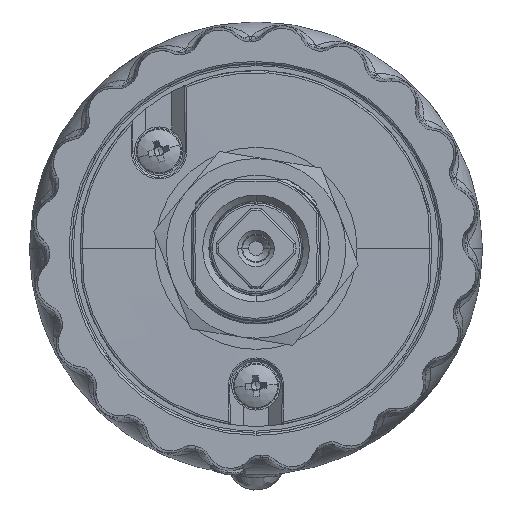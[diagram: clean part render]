
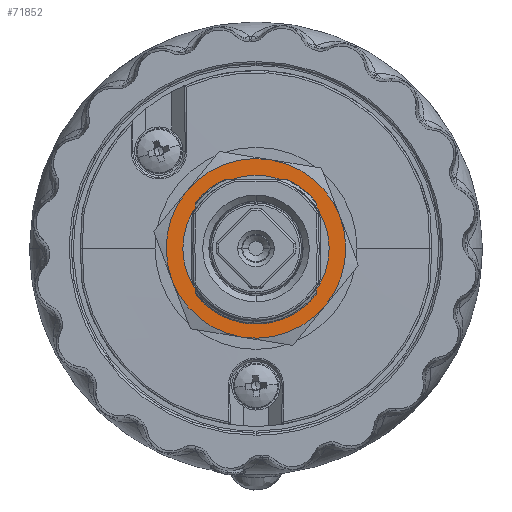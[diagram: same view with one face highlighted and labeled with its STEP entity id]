
A CAD part, front view. The second image highlights one B-rep face of the part: STEP entity #71852.
In plain terms, the highlighted planar face has unit normal (0, -1, 0).
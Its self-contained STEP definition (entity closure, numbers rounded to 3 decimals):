
#413 = VERTEX_POINT ( 'NONE', #24176 ) ;
#2072 = DIRECTION ( 'NONE',  ( 0., 0., 1. ) ) ;
#6147 = CARTESIAN_POINT ( 'NONE',  ( 0., -1.6, 0. ) ) ;
#6437 = AXIS2_PLACEMENT_3D ( 'NONE', #51635, #84936, #61442 ) ;
#8771 = AXIS2_PLACEMENT_3D ( 'NONE', #22211, #106858, #98677 ) ;
#12088 = CARTESIAN_POINT ( 'NONE',  ( 0., -1.6, 0. ) ) ;
#13111 = DIRECTION ( 'NONE',  ( 0., 0., 1. ) ) ;
#17838 = CARTESIAN_POINT ( 'NONE',  ( 0., -1.6, 0. ) ) ;
#18596 = DIRECTION ( 'NONE',  ( 0., -1., 0. ) ) ;
#18891 = CIRCLE ( 'NONE', #22399, 9.05 ) ;
#20760 = CARTESIAN_POINT ( 'NONE',  ( 0., -1.6, 0. ) ) ;
#21806 = EDGE_CURVE ( 'NONE', #83385, #69968, #51777, .T. ) ;
#22211 = CARTESIAN_POINT ( 'NONE',  ( -11.243, -1.6, 11.243 ) ) ;
#22399 = AXIS2_PLACEMENT_3D ( 'NONE', #54659, #87940, #13111 ) ;
#22487 = AXIS2_PLACEMENT_3D ( 'NONE', #20760, #18596, #53028 ) ;
#23152 = AXIS2_PLACEMENT_3D ( 'NONE', #12088, #57225, #29569 ) ;
#23854 = VERTEX_POINT ( 'NONE', #53484 ) ;
#24137 = ORIENTED_EDGE ( 'NONE', *, *, #90761, .T. ) ;
#24176 = CARTESIAN_POINT ( 'NONE',  ( 9.622, -1.6, -5.555 ) ) ;
#24209 = DIRECTION ( 'NONE',  ( 0., 0., 1. ) ) ;
#26127 = EDGE_LOOP ( 'NONE', ( #91401, #93571, #95500, #24137, #100813, #81645 ) ) ;
#29569 = DIRECTION ( 'NONE',  ( 0., 0., 1. ) ) ;
#31574 = CIRCLE ( 'NONE', #43739, 11.11 ) ;
#34681 = CARTESIAN_POINT ( 'NONE',  ( 0., -1.6, -11.11 ) ) ;
#35179 = CARTESIAN_POINT ( 'NONE',  ( 0., -1.6, 9.05 ) ) ;
#37473 = VERTEX_POINT ( 'NONE', #37492 ) ;
#37492 = CARTESIAN_POINT ( 'NONE',  ( 0., -1.6, -9.05 ) ) ;
#42455 = AXIS2_PLACEMENT_3D ( 'NONE', #6147, #105081, #54844 ) ;
#43739 = AXIS2_PLACEMENT_3D ( 'NONE', #17838, #101422, #76812 ) ;
#46361 = AXIS2_PLACEMENT_3D ( 'NONE', #106166, #97467, #24209 ) ;
#51212 = EDGE_CURVE ( 'NONE', #23854, #56881, #70223, .T. ) ;
#51635 = CARTESIAN_POINT ( 'NONE',  ( 0., -1.6, 0. ) ) ;
#51777 = CIRCLE ( 'NONE', #6437, 11.11 ) ;
#52427 = EDGE_CURVE ( 'NONE', #60425, #37473, #18891, .T. ) ;
#53028 = DIRECTION ( 'NONE',  ( 0., 0., 1. ) ) ;
#53484 = CARTESIAN_POINT ( 'NONE',  ( -9.622, -1.6, -5.555 ) ) ;
#54269 = EDGE_CURVE ( 'NONE', #37473, #60425, #90541, .T. ) ;
#54659 = CARTESIAN_POINT ( 'NONE',  ( 0., -1.6, 0. ) ) ;
#54844 = DIRECTION ( 'NONE',  ( 0., 0., 1. ) ) ;
#56881 = VERTEX_POINT ( 'NONE', #34681 ) ;
#57225 = DIRECTION ( 'NONE',  ( 0., -1., 0. ) ) ;
#57690 = FACE_OUTER_BOUND ( 'NONE', #26127, .T. ) ;
#60425 = VERTEX_POINT ( 'NONE', #35179 ) ;
#61442 = DIRECTION ( 'NONE',  ( 0., 0., 1. ) ) ;
#64298 = EDGE_CURVE ( 'NONE', #83885, #23854, #80744, .T. ) ;
#69968 = VERTEX_POINT ( 'NONE', #71498 ) ;
#70223 = CIRCLE ( 'NONE', #23152, 11.11 ) ;
#71498 = CARTESIAN_POINT ( 'NONE',  ( 0., -1.6, 11.11 ) ) ;
#71852 = ADVANCED_FACE ( 'NONE', ( #73506, #57690 ), #97074, .T. ) ;
#73506 = FACE_BOUND ( 'NONE', #97444, .T. ) ;
#75519 = CARTESIAN_POINT ( 'NONE',  ( 9.622, -1.6, 5.555 ) ) ;
#76812 = DIRECTION ( 'NONE',  ( 0., 0., 1. ) ) ;
#77235 = AXIS2_PLACEMENT_3D ( 'NONE', #85653, #100977, #2072 ) ;
#80744 = CIRCLE ( 'NONE', #77235, 11.11 ) ;
#81645 = ORIENTED_EDGE ( 'NONE', *, *, #21806, .T. ) ;
#83226 = EDGE_CURVE ( 'NONE', #413, #83385, #91741, .T. ) ;
#83385 = VERTEX_POINT ( 'NONE', #75519 ) ;
#83885 = VERTEX_POINT ( 'NONE', #86091 ) ;
#84936 = DIRECTION ( 'NONE',  ( 0., -1., 0. ) ) ;
#85653 = CARTESIAN_POINT ( 'NONE',  ( 0., -1.6, 0. ) ) ;
#86091 = CARTESIAN_POINT ( 'NONE',  ( -9.622, -1.6, 5.555 ) ) ;
#87940 = DIRECTION ( 'NONE',  ( 0., -1., 0. ) ) ;
#90541 = CIRCLE ( 'NONE', #22487, 9.05 ) ;
#90761 = EDGE_CURVE ( 'NONE', #56881, #413, #100015, .T. ) ;
#91401 = ORIENTED_EDGE ( 'NONE', *, *, #101398, .T. ) ;
#91741 = CIRCLE ( 'NONE', #46361, 11.11 ) ;
#93057 = ORIENTED_EDGE ( 'NONE', *, *, #54269, .F. ) ;
#93571 = ORIENTED_EDGE ( 'NONE', *, *, #64298, .T. ) ;
#95500 = ORIENTED_EDGE ( 'NONE', *, *, #51212, .T. ) ;
#96733 = ORIENTED_EDGE ( 'NONE', *, *, #52427, .F. ) ;
#97074 = PLANE ( 'NONE',  #8771 ) ;
#97444 = EDGE_LOOP ( 'NONE', ( #96733, #93057 ) ) ;
#97467 = DIRECTION ( 'NONE',  ( 0., -1., 0. ) ) ;
#98677 = DIRECTION ( 'NONE',  ( 0., 0., -1. ) ) ;
#100015 = CIRCLE ( 'NONE', #42455, 11.11 ) ;
#100813 = ORIENTED_EDGE ( 'NONE', *, *, #83226, .T. ) ;
#100977 = DIRECTION ( 'NONE',  ( 0., -1., 0. ) ) ;
#101398 = EDGE_CURVE ( 'NONE', #69968, #83885, #31574, .T. ) ;
#101422 = DIRECTION ( 'NONE',  ( 0., -1., 0. ) ) ;
#105081 = DIRECTION ( 'NONE',  ( 0., -1., 0. ) ) ;
#106166 = CARTESIAN_POINT ( 'NONE',  ( 0., -1.6, 0. ) ) ;
#106858 = DIRECTION ( 'NONE',  ( 0., -1., 0. ) ) ;
